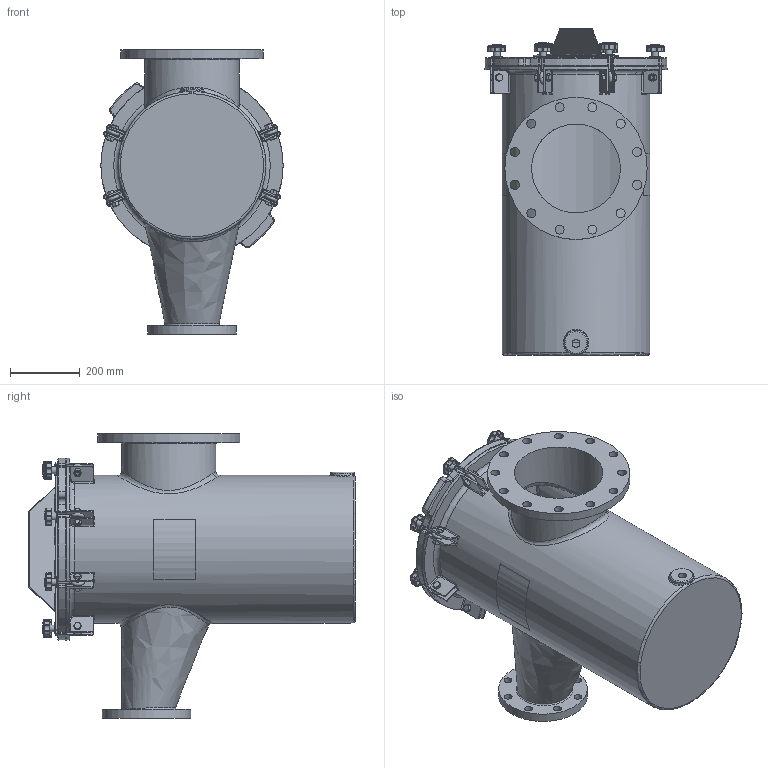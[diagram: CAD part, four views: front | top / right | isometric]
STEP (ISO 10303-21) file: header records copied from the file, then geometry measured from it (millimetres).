
FILE_DESCRIPTION(/* description */ ('STRAINER BODY'),/* implementation_level */ '2;1');
FILE_NAME(/* name */ '\\chntshnas1\IP_PUMPS\NeptuneBenson\Project Execution\WIP\Ready for delivery - Do not Disturb -Updated with metric Flange\Workspace\FG Reducing Strainer\150NBFG15ER1.stp',/* time_stamp */ '2016-10-19T11:56:18+05:00',/* author */ ('20076253'),/* organization */ (''),/* preprocessor_version */ 'ST-DEVELOPER v16.1',/* originating_system */ 'Autodesk Inventor 2016',/* authorisation */ '');
FILE_SCHEMA (('AUTOMOTIVE_DESIGN { 1 0 10303 214 3 1 1 }'));
Length unit declared in the file: inch
Products named in the file (24): NBFG15EBODYR1; 150NBCVR20R2; 150NBGSK16R1; Perforated Basket 16in; Bride (Ring) 16in; Baffle 16in; Handle 16in; Bottom Strainer 16in; NBBSK10T316; BRACESTRCVR16_Welds; BRACE (BASE) FOR 16 BODY; BRACE (PROJ) FOR 16 BODY; Bumper; BRACESTRCVR16; Nut- 1_2  UNC; Bolt-1_2 x 1 1_2  UNC; EyeBolt; Washer; Knob M10; Securing Assembly For FG  with Brace; Securing Assembly For FG without Brace; Label for 16.625 inch (Right); Label for 16.625 inch (Left); Guardian FG Reducing H&L Strainer (Inch)
Assembly tree (39 placements, depth 3):
  Guardian FG Reducing H&L Strainer (Inch)
    NBFG15EBODYR1
    150NBCVR20R2
    150NBGSK16R1
    NBBSK10T316
      Perforated Basket 16in
      Bride (Ring) 16in
      Baffle 16in
      Handle 16in
      Bottom Strainer 16in
    BRACESTRCVR16
      BRACESTRCVR16_Welds
      BRACE (BASE) FOR 16 BODY
      BRACE (PROJ) FOR 16 BODY
      Bumper  x6
    Securing Assembly For FG  with Brace  x2
      Nut- 1_2  UNC
      Bolt-1_2 x 1 1_2  UNC
      EyeBolt
      Washer
      Knob M10
    Securing Assembly For FG without Brace  x6
      Nut- 1_2  UNC
      Bolt-1_2 x 1 1_2  UNC
      EyeBolt
      Washer
      Knob M10
    Label for 16.625 inch (Right)
    Label for 16.625 inch (Left)
Bounding box: 520.7 x 933.45 x 812.8 mm (x, y, z)
Volume: 22513882.6 mm3; surface area: 5725443.3 mm2
Topology: 66 solids, 66 shells, 1804 faces, 4113 edges, 2430 vertices
Faces by surface type: cylinder 658, plane 500, cone 184, torus 166, sphere 158, bspline 138
Full cylindrical faces by diameter (mm): 3.175 x11, 6.35 x2, 8.382 x8, 9.525 x16, 10.592 x8, 12.7 x8, 15.875 x16, 19 x16, 19.05 x8, 22.225 x8, 22.809 x1, 25.4 x12, 31.75 x8, 68.263 x1, 254 x2, 269.875 x1, 295.275 x2, 298.45 x1, 300.99 x1, 406.4 x3, 409.575 x1, 415.925 x1, 422.275 x1, 457.2 x1, 463.55 x1
Entity records: 33961 total; most frequent: CARTESIAN_POINT 11170, DIRECTION 4715, ORIENTED_EDGE 4300, EDGE_CURVE 2150, AXIS2_PLACEMENT_3D 1934, VERTEX_POINT 1347, EDGE_LOOP 1167, ADVANCED_FACE 954
